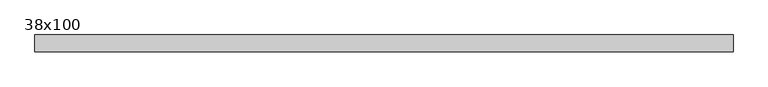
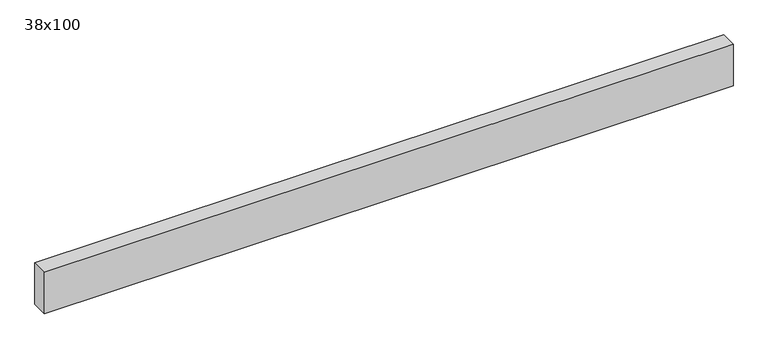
"""IFC4 building model written with IfcOpenShell, lengths in millimetres: beam geometry, Poutre - Bois de construction de dimensions courantes : 38x100."""

from ifc_helpers import new_model, si_unit, frame, origin, place, context, project, spatial, polyline, outline, extrude, source, transform, mapped, element, save


def beam_38x100_dfc1d4f9(model_context):
    return source(origin(), model_context, "Body", "SweptSolid", [
        extrude(outline(polyline([(820.0, 19.05), (820.0, -19.05), (-760.0, -19.05), (-760.0, 19.05), (820.0, 19.05)])), frame((0.0, 0.0, -50.0), z_axis=(0.0, 0.0, 1.0), x_axis=(1.0, 0.0, 0.0)), (0.0, 0.0, 1.0), 100.0),
    ])


if __name__ == "__main__":
    model = new_model("IFC4")
    model_context = context("Model", 3, world=origin())
    ifc_project = project(units=[si_unit("LENGTHUNIT", "METRE", prefix="MILLI")], contexts=[model_context])
    site = spatial("IfcSite", under=ifc_project)
    building = spatial("IfcBuilding", under=site)
    placement = place(None, origin())
    beam_38x100_shape = beam_38x100_dfc1d4f9(model_context)
    element("IfcBeam", 1, ObjectType="Poutre - Bois de construction de dimensions courantes : 38x100", at=placement, inside=building, context=model_context, shape_type="MappedRepresentation", body=[
        mapped(beam_38x100_shape, transform((0.0, 0.0, 0.0), x_axis=(1.0, 0.0, 0.0), y_axis=(0.0, 1.0, 0.0), z_axis=(0.0, 0.0, 1.0))),
    ])
    save(model, "model.ifc")
